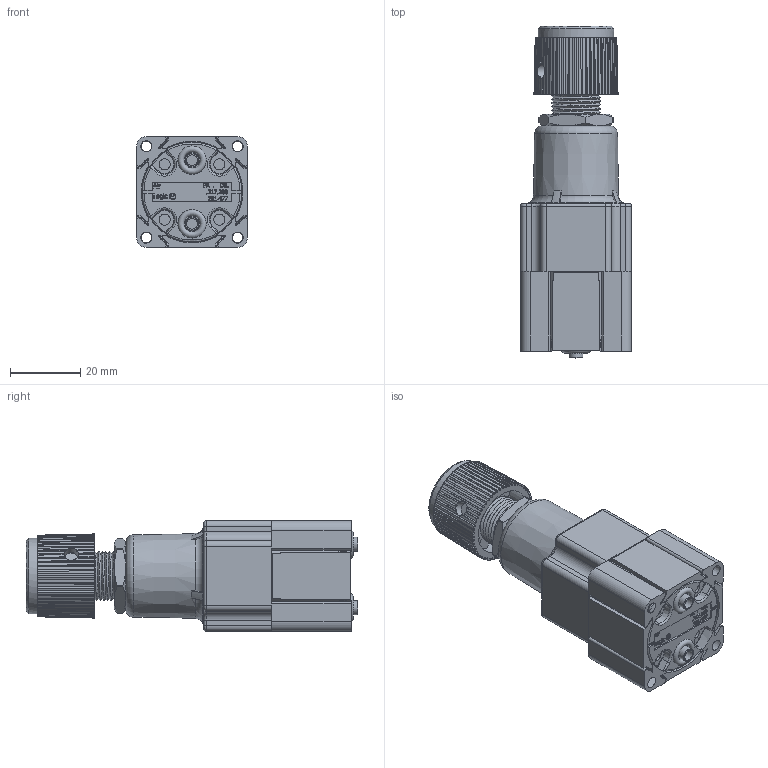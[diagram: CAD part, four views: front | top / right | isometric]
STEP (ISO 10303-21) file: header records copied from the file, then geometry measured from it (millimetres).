
FILE_DESCRIPTION(/* description */ (''),/* implementation_level */ '2;1');
FILE_NAME(/* name */ 'K:\Normteile INVENTOR\Air-Logic\Regulators\NR4000\NR 4___ Manifold Mount.igs.ipt.stp',/* time_stamp */ '2020-05-27T10:51:44+02:00',/* author */ ('J Mitchell'),/* organization */ (''),/* preprocessor_version */ 'ST-DEVELOPER v18',/* originating_system */ 'Autodesk Inventor 2020',/* authorisation */ '');
FILE_SCHEMA (('AUTOMOTIVE_DESIGN { 1 0 10303 214 3 1 1 }'));
Length unit declared in the file: inch
Products named in the file (1): NR 4___ Manifold Mount.igs
Bounding box: 31.72 x 94.61 x 31.72 mm (x, y, z)
Volume: 55372.8 mm3; surface area: 18342.7 mm2
Topology: 5 solids, 5 shells, 1184 faces, 3084 edges, 1967 vertices
Faces by surface type: plane 577, bspline 240, cylinder 221, cone 93, torus 45, sphere 8
Full cylindrical faces by diameter (mm): 3.073 x2, 3.175 x4, 3.967 x2, 4.039 x1, 4.064 x1, 6.35 x1, 8.103 x2, 10.414 x1, 19.406 x1, 21.476 x1
Entity records: 42761 total; most frequent: CARTESIAN_POINT 13685, ORIENTED_EDGE 6144, DIRECTION 5178, EDGE_CURVE 3072, VERTEX_POINT 1967, LINE 1758, VECTOR 1758, AXIS2_PLACEMENT_3D 1710
